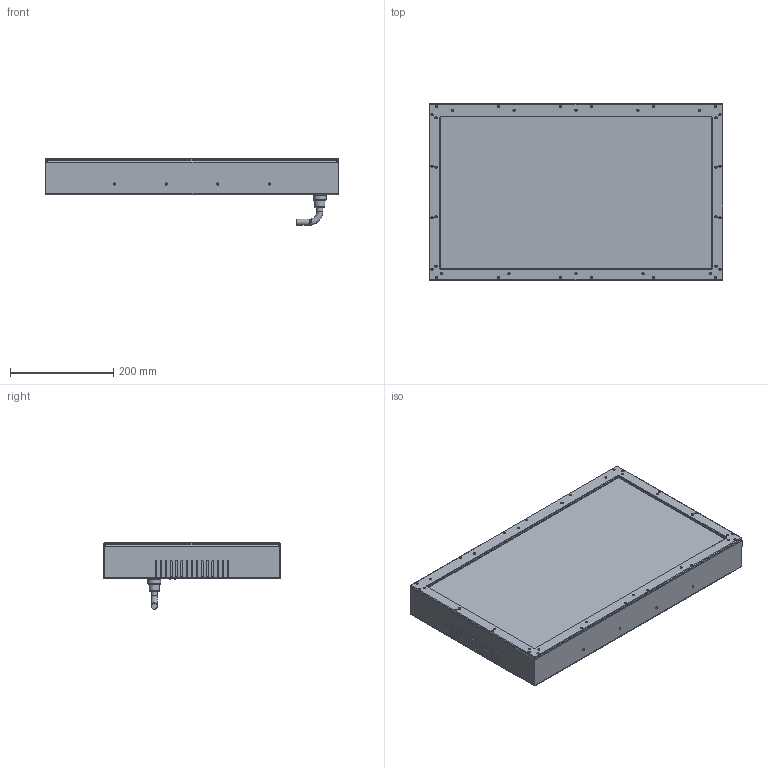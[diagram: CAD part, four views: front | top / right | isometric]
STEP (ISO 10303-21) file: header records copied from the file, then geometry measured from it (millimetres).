
FILE_DESCRIPTION (( 'STEP AP203' ), '1' );
FILE_NAME ('OPT-PCP530300-X-V1.0尨砩芞1.STEP', '2025-02-12T01:53:12', ( '' ), ( '' ), 'SwSTEP 2.0', 'SolidWorks 2016', '' );
FILE_SCHEMA (( 'CONFIG_CONTROL_DESIGN' ));
Length unit declared in the file: millimetre
Products named in the file (1): OPT-PCP530300-X-V1.0尨砩芞1
Bounding box: 568 x 342 x 128.85 mm (x, y, z)
Surface area: 880084.3 mm2 (no closed solid volume)
Topology: 0 solids, 79 shells, 2317 faces, 7666 edges, 5432 vertices
Faces by surface type: plane 1656, cylinder 537, cone 88, bspline 31, torus 5
Full cylindrical faces by diameter (mm): 0.457 x3, 1.6 x38, 2.4 x38, 3.4 x2, 3.5 x4, 4.2 x8, 5 x1, 6 x8, 10 x1, 11.7 x2, 20 x2, 20.5 x1, 25 x1
Entity records: 85662 total; most frequent: CARTESIAN_POINT 19369, DIRECTION 13180, ORIENTED_EDGE 12754, EDGE_CURVE 7475, VECTOR 5854, LINE 5854, VERTEX_POINT 5396, AXIS2_PLACEMENT_3D 3663
